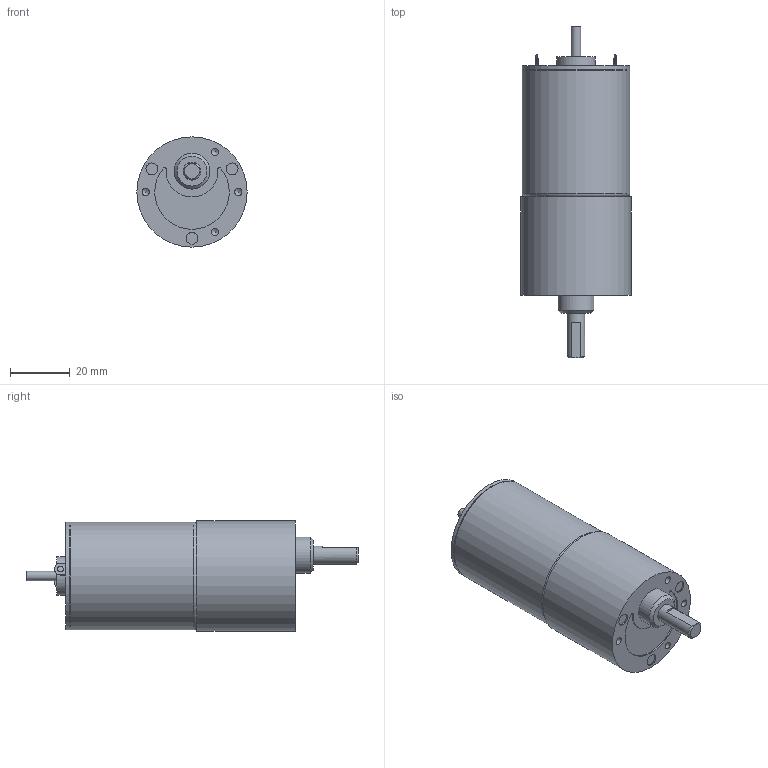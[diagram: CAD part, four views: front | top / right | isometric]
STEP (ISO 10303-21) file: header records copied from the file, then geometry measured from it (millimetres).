
FILE_DESCRIPTION((''),'2;1');
FILE_NAME('C:\Documents and Settings\SSEGAWA\デスクトップ\TP-3644L-KM-6.STP','2013-07-26T18:44:22',('SSEGAWA'),(''),'Autodesk Inventor 2010','Autodesk Inventor 2010','');
FILE_SCHEMA(('CONFIG_CONTROL_DESIGN'));
Length unit declared in the file: millimetre
Products named in the file (1): tp_3644l_km_6_Shrinkwrap_1
Bounding box: 37 x 111.3 x 37 mm (x, y, z)
Volume: 81505.9 mm3; surface area: 12213.2 mm2
Topology: 1 solids, 4 shells, 67 faces, 141 edges, 94 vertices
Faces by surface type: plane 28, cylinder 19, bspline 16, torus 2, cone 2
Full cylindrical faces by diameter (mm): 3 x1, 3.175 x1, 3.5 x1, 4 x3, 6 x1, 12 x1, 13 x1, 35.6 x1, 36 x2, 37 x1
Entity records: 1793 total; most frequent: CARTESIAN_POINT 509, DIRECTION 253, ORIENTED_EDGE 180, EDGE_LOOP 115, AXIS2_PLACEMENT_3D 113, EDGE_CURVE 90, VERTEX_POINT 75, STYLED_ITEM 68
